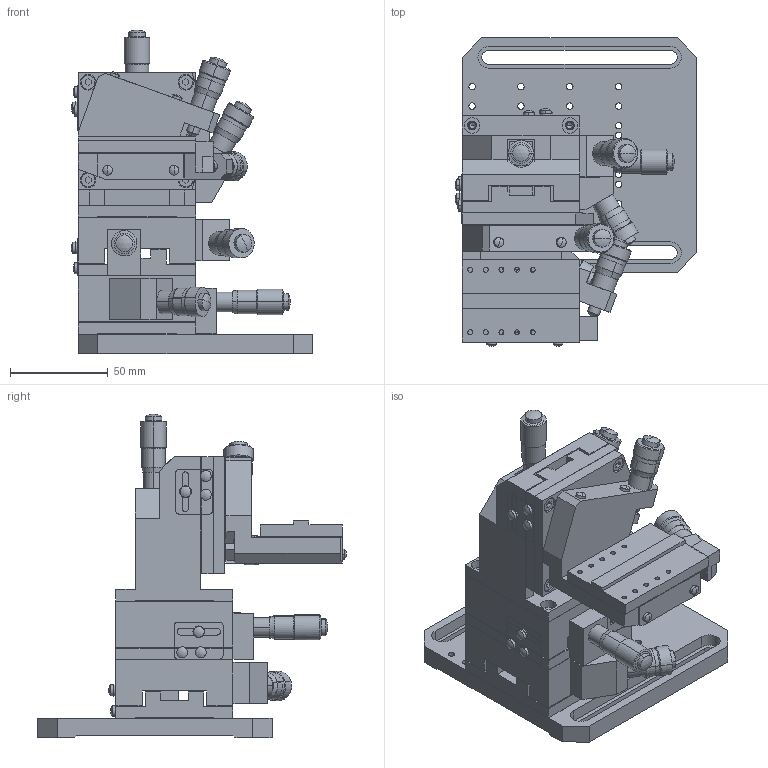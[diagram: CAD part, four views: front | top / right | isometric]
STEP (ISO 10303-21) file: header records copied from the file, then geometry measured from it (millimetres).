
FILE_DESCRIPTION(('STEP AP203'),'1');
FILE_NAME('C:/3D-trance/3D_E2000B-R+160428.step','2016-04-28T08:48:03',(' '),(' '),'Spatial InterOp 3D',' ',' ');
FILE_SCHEMA(('CONFIG_CONTROL_DESIGN'));
Length unit declared in the file: millimetre
Products named in the file (22): 1; 2; 3; 4; 5; 6; 7; 8; 9; 10; 11; 12; 13; 14; 15; 16; 17; 18; 19; 20; 21; 22
Bounding box: 123.64 x 158.05 x 165.7 mm (x, y, z)
Volume: 618959 mm3; surface area: 194047 mm2
Topology: 22 solids, 22 shells, 1028 faces, 2649 edges, 1695 vertices
Faces by surface type: cylinder 459, plane 413, cone 116, sphere 30, bspline 10
Entity records: 32662 total; most frequent: CARTESIAN_POINT 5813, DIRECTION 5663, ORIENTED_EDGE 5150, EDGE_CURVE 2575, AXIS2_PLACEMENT_3D 2075, VERTEX_POINT 1695, LINE 1513, VECTOR 1513
